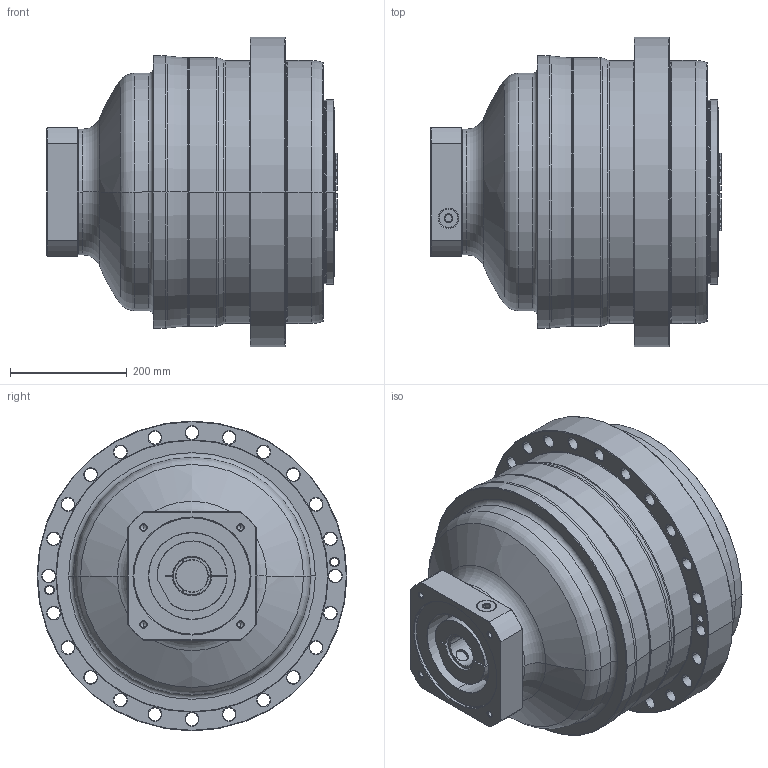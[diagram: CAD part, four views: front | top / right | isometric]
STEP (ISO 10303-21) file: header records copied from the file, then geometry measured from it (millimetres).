
FILE_DESCRIPTION((''),'2;1');
FILE_NAME('APC450_2ST_55-P0409C50201_ASM','2018-06-29T',('d01226'),(''),'PRO/ENGINEER BY PARAMETRIC TECHNOLOGY CORPORATION, 2008410','PRO/ENGINEER BY PARAMETRIC TECHNOLOGY CORPORATION, 2008410','');
FILE_SCHEMA(('CONFIG_CONTROL_DESIGN'));
Length unit declared in the file: millimetre
Products named in the file (9): P0276201003; P03572B0103; P1339210301; P0503C00016; P0962204001; P1222200001; P0409C50201; 21711426021; APC450_2ST_55-P0409C50201_ASM
Assembly tree (8 placements, depth 2):
  APC450_2ST_55-P0409C50201_ASM
    P0276201003
    P03572B0103
    P1339210301
    P0503C00016
    P0962204001
    P1222200001
    P0409C50201
    21711426021
Bounding box: 497.1 x 530 x 530 mm (x, y, z)
Volume: 72340106.6 mm3; surface area: 2126677.6 mm2
Topology: 9 solids, 34 shells, 1009 faces, 2487 edges, 1517 vertices
Faces by surface type: cone 340, cylinder 304, plane 185, torus 166, bspline 14
Entity records: 36204 total; most frequent: CARTESIAN_POINT 11995, DIRECTION 5431, ORIENTED_EDGE 4776, EDGE_CURVE 2437, AXIS2_PLACEMENT_3D 2365, VERTEX_POINT 1517, CIRCLE 1341, EDGE_LOOP 1146
